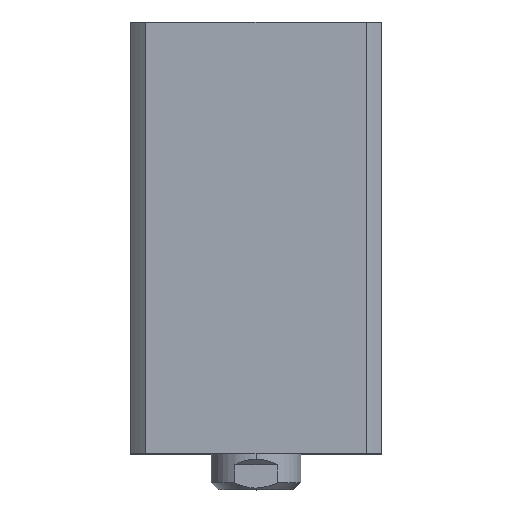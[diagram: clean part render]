
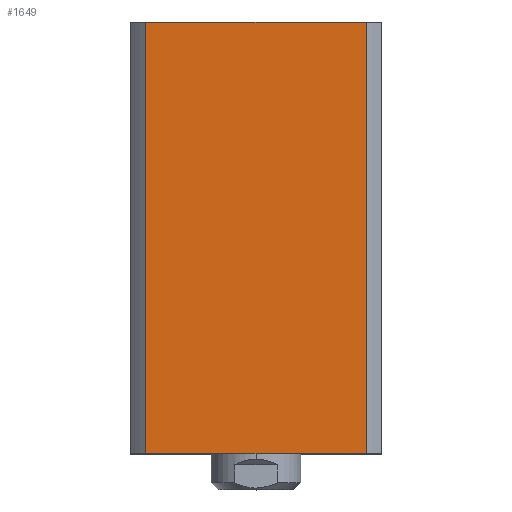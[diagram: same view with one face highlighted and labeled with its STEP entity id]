
A CAD part, top view. The second image highlights one B-rep face of the part: STEP entity #1649.
In plain terms, the highlighted planar face has unit normal (0, 0, 1) as drawn and (1, 0, 0) by its records, which use the part's own axes.
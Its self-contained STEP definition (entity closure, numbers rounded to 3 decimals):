
#23 = LINE ( 'NONE', #6030, #9613 ) ;
#103 = EDGE_LOOP ( 'NONE', ( #7500, #4483, #558, #9470 ) ) ;
#558 = ORIENTED_EDGE ( 'NONE', *, *, #6375, .F. ) ;
#683 = VERTEX_POINT ( 'NONE', #9328 ) ;
#850 = LINE ( 'NONE', #3045, #8650 ) ;
#919 = FACE_OUTER_BOUND ( 'NONE', #103, .T. ) ;
#1069 = EDGE_CURVE ( 'NONE', #5297, #683, #9463, .T. ) ;
#1649 = ADVANCED_FACE ( 'NONE', ( #919 ), #4062, .F. ) ;
#2646 = DIRECTION ( 'NONE',  ( -1., 0., 0. ) ) ;
#2824 = VERTEX_POINT ( 'NONE', #9289 ) ;
#3045 = CARTESIAN_POINT ( 'NONE',  ( 35., -30.615, 300. ) ) ;
#3214 = CARTESIAN_POINT ( 'NONE',  ( 35., -30.615, 0. ) ) ;
#3695 = DIRECTION ( 'NONE',  ( 0., 1., 0. ) ) ;
#3849 = DIRECTION ( 'NONE',  ( 0., 0., 1. ) ) ;
#4062 = PLANE ( 'NONE',  #9003 ) ;
#4096 = CARTESIAN_POINT ( 'NONE',  ( 35., 35., 0. ) ) ;
#4265 = CARTESIAN_POINT ( 'NONE',  ( 35., 30.615, 120. ) ) ;
#4444 = VERTEX_POINT ( 'NONE', #3214 ) ;
#4483 = ORIENTED_EDGE ( 'NONE', *, *, #4982, .F. ) ;
#4703 = CARTESIAN_POINT ( 'NONE',  ( 35., 30.615, 300. ) ) ;
#4815 = DIRECTION ( 'NONE',  ( 0., 0., -1. ) ) ;
#4862 = CARTESIAN_POINT ( 'NONE',  ( 35., 35., 120. ) ) ;
#4886 = VECTOR ( 'NONE', #4815, 1000. ) ;
#4982 = EDGE_CURVE ( 'NONE', #2824, #5297, #23, .T. ) ;
#5297 = VERTEX_POINT ( 'NONE', #4265 ) ;
#5708 = DIRECTION ( 'NONE',  ( 0., 1., 0. ) ) ;
#5859 = VECTOR ( 'NONE', #5708, 1000. ) ;
#6030 = CARTESIAN_POINT ( 'NONE',  ( 35., 35., 120. ) ) ;
#6375 = EDGE_CURVE ( 'NONE', #4444, #2824, #850, .T. ) ;
#6657 = EDGE_CURVE ( 'NONE', #4444, #683, #7910, .T. ) ;
#7500 = ORIENTED_EDGE ( 'NONE', *, *, #1069, .F. ) ;
#7910 = LINE ( 'NONE', #4096, #5859 ) ;
#8299 = DIRECTION ( 'NONE',  ( 0., 0., 1. ) ) ;
#8650 = VECTOR ( 'NONE', #3849, 1000. ) ;
#9003 = AXIS2_PLACEMENT_3D ( 'NONE', #4862, #2646, #8299 ) ;
#9289 = CARTESIAN_POINT ( 'NONE',  ( 35., -30.615, 120. ) ) ;
#9328 = CARTESIAN_POINT ( 'NONE',  ( 35., 30.615, 0. ) ) ;
#9463 = LINE ( 'NONE', #4703, #4886 ) ;
#9470 = ORIENTED_EDGE ( 'NONE', *, *, #6657, .T. ) ;
#9613 = VECTOR ( 'NONE', #3695, 1000. ) ;
